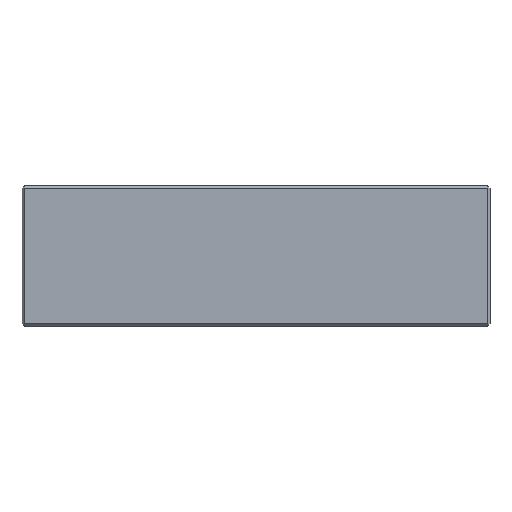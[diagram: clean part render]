
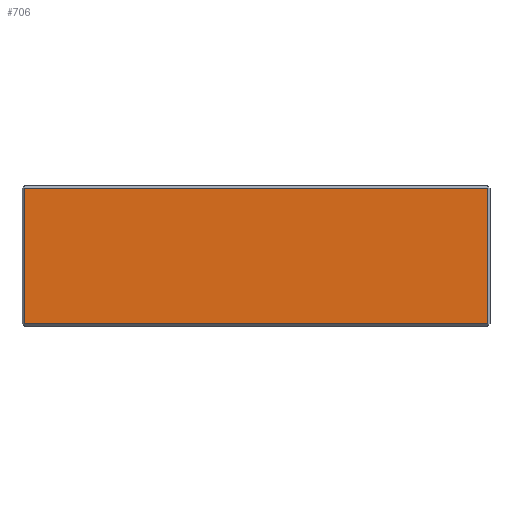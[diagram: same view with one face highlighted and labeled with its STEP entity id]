
A CAD part, top view. The second image highlights one B-rep face of the part: STEP entity #706.
In plain terms, the highlighted planar face has unit normal (0, 0, 1).
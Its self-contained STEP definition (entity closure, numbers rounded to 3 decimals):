
#126 = PLANE('',#127);
#127 = AXIS2_PLACEMENT_3D('',#128,#129,#130);
#128 = CARTESIAN_POINT('',(1.,0.,17.));
#129 = DIRECTION('',(0.707,0.,-0.707));
#130 = DIRECTION('',(0.,1.,0.));
#309 = VERTEX_POINT('',#310);
#310 = CARTESIAN_POINT('',(2.,2.,18.));
#333 = VERTEX_POINT('',#334);
#334 = CARTESIAN_POINT('',(2.,118.,18.));
#360 = EDGE_CURVE('',#309,#333,#361,.T.);
#361 = SURFACE_CURVE('',#362,(#366,#373),.PCURVE_S1.);
#362 = LINE('',#363,#364);
#363 = CARTESIAN_POINT('',(2.,0.,18.));
#364 = VECTOR('',#365,1.);
#365 = DIRECTION('',(0.,1.,0.));
#366 = PCURVE('',#126,#367);
#367 = DEFINITIONAL_REPRESENTATION('',(#368),#372);
#368 = LINE('',#369,#370);
#369 = CARTESIAN_POINT('',(0.,1.414));
#370 = VECTOR('',#371,1.);
#371 = DIRECTION('',(1.,0.));
#372 = ( GEOMETRIC_REPRESENTATION_CONTEXT(2) 
PARAMETRIC_REPRESENTATION_CONTEXT() REPRESENTATION_CONTEXT('2D SPACE',''
  ) );
#373 = PCURVE('',#374,#379);
#374 = PLANE('',#375);
#375 = AXIS2_PLACEMENT_3D('',#376,#377,#378);
#376 = CARTESIAN_POINT('',(0.,0.,18.));
#377 = DIRECTION('',(0.,0.,1.));
#378 = DIRECTION('',(1.,0.,0.));
#379 = DEFINITIONAL_REPRESENTATION('',(#380),#384);
#380 = LINE('',#381,#382);
#381 = CARTESIAN_POINT('',(2.,0.));
#382 = VECTOR('',#383,1.);
#383 = DIRECTION('',(0.,1.));
#384 = ( GEOMETRIC_REPRESENTATION_CONTEXT(2) 
PARAMETRIC_REPRESENTATION_CONTEXT() REPRESENTATION_CONTEXT('2D SPACE',''
  ) );
#536 = PLANE('',#537);
#537 = AXIS2_PLACEMENT_3D('',#538,#539,#540);
#538 = CARTESIAN_POINT('',(0.,1.,17.));
#539 = DIRECTION('',(0.,0.707,-0.707));
#540 = DIRECTION('',(-1.,-0.,-0.));
#706 = ADVANCED_FACE('',(#707),#374,.T.);
#707 = FACE_BOUND('',#708,.T.);
#708 = EDGE_LOOP('',(#709,#737,#738,#761));
#709 = ORIENTED_EDGE('',*,*,#710,.F.);
#710 = EDGE_CURVE('',#333,#711,#713,.T.);
#711 = VERTEX_POINT('',#712);
#712 = CARTESIAN_POINT('',(398.,118.,18.));
#713 = SURFACE_CURVE('',#714,(#718,#725),.PCURVE_S1.);
#714 = LINE('',#715,#716);
#715 = CARTESIAN_POINT('',(0.,118.,18.));
#716 = VECTOR('',#717,1.);
#717 = DIRECTION('',(1.,0.,0.));
#718 = PCURVE('',#374,#719);
#719 = DEFINITIONAL_REPRESENTATION('',(#720),#724);
#720 = LINE('',#721,#722);
#721 = CARTESIAN_POINT('',(0.,118.));
#722 = VECTOR('',#723,1.);
#723 = DIRECTION('',(1.,0.));
#724 = ( GEOMETRIC_REPRESENTATION_CONTEXT(2) 
PARAMETRIC_REPRESENTATION_CONTEXT() REPRESENTATION_CONTEXT('2D SPACE',''
  ) );
#725 = PCURVE('',#726,#731);
#726 = PLANE('',#727);
#727 = AXIS2_PLACEMENT_3D('',#728,#729,#730);
#728 = CARTESIAN_POINT('',(0.,119.,17.));
#729 = DIRECTION('',(0.,0.707,0.707));
#730 = DIRECTION('',(-1.,-0.,0.));
#731 = DEFINITIONAL_REPRESENTATION('',(#732),#736);
#732 = LINE('',#733,#734);
#733 = CARTESIAN_POINT('',(-0.,1.414));
#734 = VECTOR('',#735,1.);
#735 = DIRECTION('',(-1.,0.));
#736 = ( GEOMETRIC_REPRESENTATION_CONTEXT(2) 
PARAMETRIC_REPRESENTATION_CONTEXT() REPRESENTATION_CONTEXT('2D SPACE',''
  ) );
#737 = ORIENTED_EDGE('',*,*,#360,.F.);
#738 = ORIENTED_EDGE('',*,*,#739,.T.);
#739 = EDGE_CURVE('',#309,#740,#742,.T.);
#740 = VERTEX_POINT('',#741);
#741 = CARTESIAN_POINT('',(398.,2.,18.));
#742 = SURFACE_CURVE('',#743,(#747,#754),.PCURVE_S1.);
#743 = LINE('',#744,#745);
#744 = CARTESIAN_POINT('',(0.,2.,18.));
#745 = VECTOR('',#746,1.);
#746 = DIRECTION('',(1.,0.,0.));
#747 = PCURVE('',#374,#748);
#748 = DEFINITIONAL_REPRESENTATION('',(#749),#753);
#749 = LINE('',#750,#751);
#750 = CARTESIAN_POINT('',(0.,2.));
#751 = VECTOR('',#752,1.);
#752 = DIRECTION('',(1.,0.));
#753 = ( GEOMETRIC_REPRESENTATION_CONTEXT(2) 
PARAMETRIC_REPRESENTATION_CONTEXT() REPRESENTATION_CONTEXT('2D SPACE',''
  ) );
#754 = PCURVE('',#536,#755);
#755 = DEFINITIONAL_REPRESENTATION('',(#756),#760);
#756 = LINE('',#757,#758);
#757 = CARTESIAN_POINT('',(-0.,1.414));
#758 = VECTOR('',#759,1.);
#759 = DIRECTION('',(-1.,0.));
#760 = ( GEOMETRIC_REPRESENTATION_CONTEXT(2) 
PARAMETRIC_REPRESENTATION_CONTEXT() REPRESENTATION_CONTEXT('2D SPACE',''
  ) );
#761 = ORIENTED_EDGE('',*,*,#762,.T.);
#762 = EDGE_CURVE('',#740,#711,#763,.T.);
#763 = SURFACE_CURVE('',#764,(#768,#775),.PCURVE_S1.);
#764 = LINE('',#765,#766);
#765 = CARTESIAN_POINT('',(398.,0.,18.));
#766 = VECTOR('',#767,1.);
#767 = DIRECTION('',(0.,1.,0.));
#768 = PCURVE('',#374,#769);
#769 = DEFINITIONAL_REPRESENTATION('',(#770),#774);
#770 = LINE('',#771,#772);
#771 = CARTESIAN_POINT('',(398.,0.));
#772 = VECTOR('',#773,1.);
#773 = DIRECTION('',(0.,1.));
#774 = ( GEOMETRIC_REPRESENTATION_CONTEXT(2) 
PARAMETRIC_REPRESENTATION_CONTEXT() REPRESENTATION_CONTEXT('2D SPACE',''
  ) );
#775 = PCURVE('',#776,#781);
#776 = PLANE('',#777);
#777 = AXIS2_PLACEMENT_3D('',#778,#779,#780);
#778 = CARTESIAN_POINT('',(399.,0.,17.));
#779 = DIRECTION('',(0.707,0.,0.707));
#780 = DIRECTION('',(-0.,1.,0.));
#781 = DEFINITIONAL_REPRESENTATION('',(#782),#786);
#782 = LINE('',#783,#784);
#783 = CARTESIAN_POINT('',(0.,1.414));
#784 = VECTOR('',#785,1.);
#785 = DIRECTION('',(1.,0.));
#786 = ( GEOMETRIC_REPRESENTATION_CONTEXT(2) 
PARAMETRIC_REPRESENTATION_CONTEXT() REPRESENTATION_CONTEXT('2D SPACE',''
  ) );
